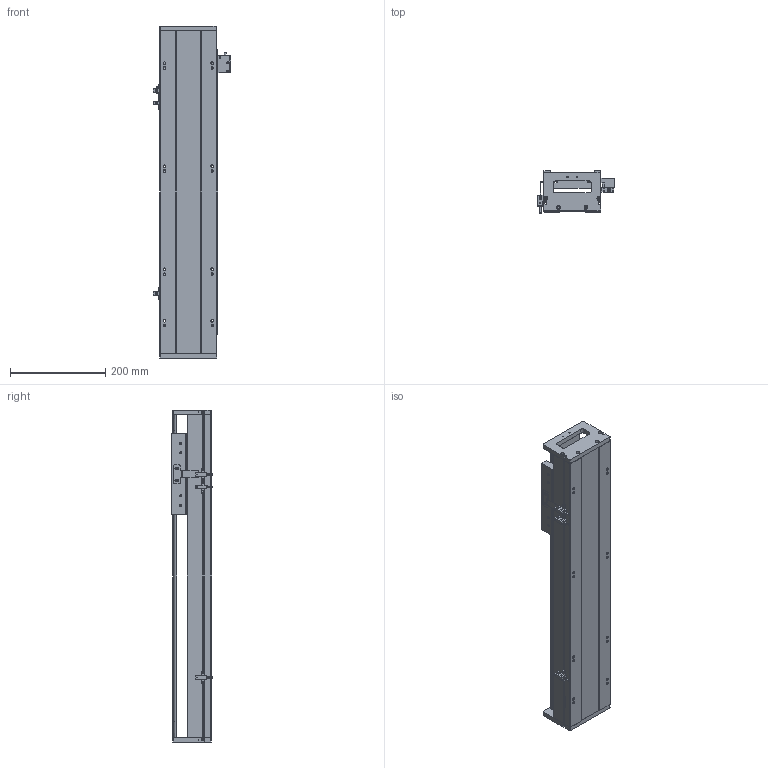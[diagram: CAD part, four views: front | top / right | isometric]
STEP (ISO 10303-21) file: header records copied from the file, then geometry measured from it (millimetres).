
FILE_DESCRIPTION (( 'STEP AP203' ), '1' );
FILE_NAME ('SKR12S-C1-S426（简）.STEP', '2022-09-26T02:29:59', ( '' ), ( '' ), 'SwSTEP 2.0', 'SolidWorks 2018', '' );
FILE_SCHEMA (( 'CONFIG_CONTROL_DESIGN' ));
Length unit declared in the file: millimetre
Products named in the file (8): SIKO棠掑; EE-SX672; 覜茼え; 棠掑假蚾輸; SKR12菁釱-C1-S426(潠); SKR12滑台-170L（简）; SKR12耜啣; SKR12S-C1-S426（简）
Assembly tree (10 placements, depth 2):
  SKR12S-C1-S426（简）
    SKR12菁釱-C1-S426(潠)
    SKR12滑台-170L（简）
    SKR12耜啣  x2
    棠掑假蚾輸
    SIKO棠掑
    覜茼え
    EE-SX672  x3
Bounding box: 162.7 x 87.3 x 696 mm (x, y, z)
Volume: 3326797.7 mm3; surface area: 564901 mm2
Topology: 11 solids, 11 shells, 934 faces, 2473 edges, 1565 vertices
Faces by surface type: cylinder 415, plane 393, cone 126
Entity records: 24937 total; most frequent: CARTESIAN_POINT 4775, DIRECTION 4179, ORIENTED_EDGE 3926, EDGE_CURVE 1963, AXIS2_PLACEMENT_3D 1537, VERTEX_POINT 1269, LINE 1105, VECTOR 1105
